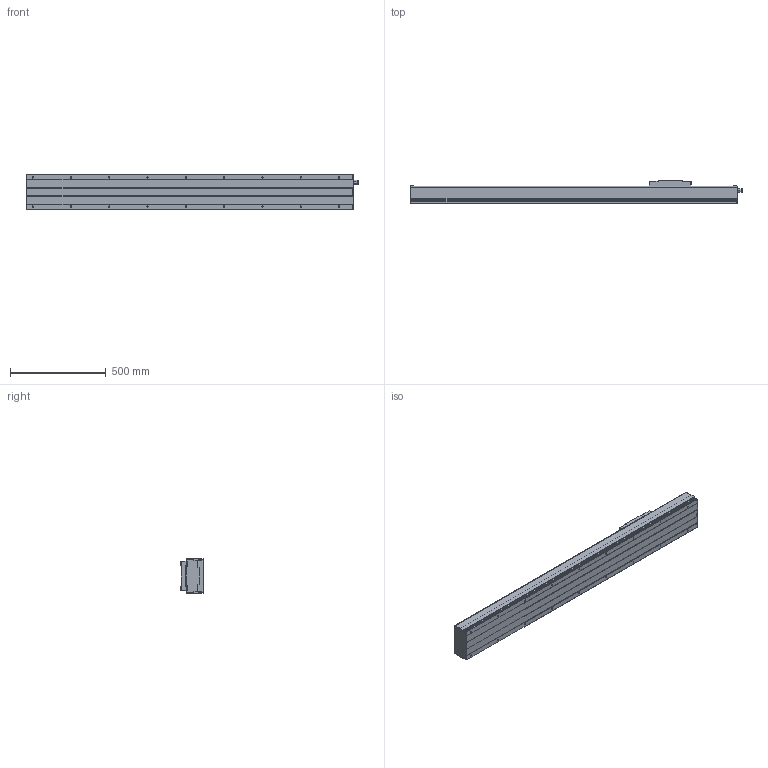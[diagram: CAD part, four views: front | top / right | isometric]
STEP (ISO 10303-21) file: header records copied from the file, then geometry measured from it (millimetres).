
FILE_DESCRIPTION(/* description */ (''),/* implementation_level */ '2;1');
FILE_NAME(/* name */ 'D:\混合母檔20191031\混和母檔\混和母檔\bin\Debug\Download\3D\KS180-20C-1200AFI\KS180-20C-1200AFI.stp',/* time_stamp */ '2019-11-04T16:23:35+08:00',/* author */ ('user'),/* organization */ (''),/* preprocessor_version */ 'ST-DEVELOPER v16.13',/* originating_system */ 'Autodesk Inventor 2018',/* authorisation */ '');
FILE_SCHEMA (('AUTOMOTIVE_DESIGN { 1 0 10303 214 3 1 1 }'));
Length unit declared in the file: millimetre
Products named in the file (3): KS180-20C-1200AFI; KS180-FI; KS180-SL
Assembly tree (2 placements, depth 2):
  KS180-20C-1200AFI
    KS180-FI
    KS180-SL
Bounding box: 1734.5 x 118 x 180 mm (x, y, z)
Volume: 9675086.1 mm3; surface area: 2070950.3 mm2
Topology: 4 solids, 8 shells, 746 faces, 1989 edges, 1297 vertices
Faces by surface type: plane 408, bspline 136, cylinder 92, cone 90, torus 16, sphere 4
Full cylindrical faces by diameter (mm): 3.571 x4, 4 x4, 4.134 x4, 4.5 x4, 6 x6, 6.647 x18, 8 x6, 8.016 x1, 8.4 x4, 9.4 x4, 12 x2, 13.1 x1, 15 x1, 18.75 x2, 46 x1, 50 x1
Entity records: 26708 total; most frequent: CARTESIAN_POINT 9374, ORIENTED_EDGE 3700, DIRECTION 3119, EDGE_CURVE 1849, VERTEX_POINT 1266, LINE 1177, VECTOR 1177, AXIS2_PLACEMENT_3D 971
